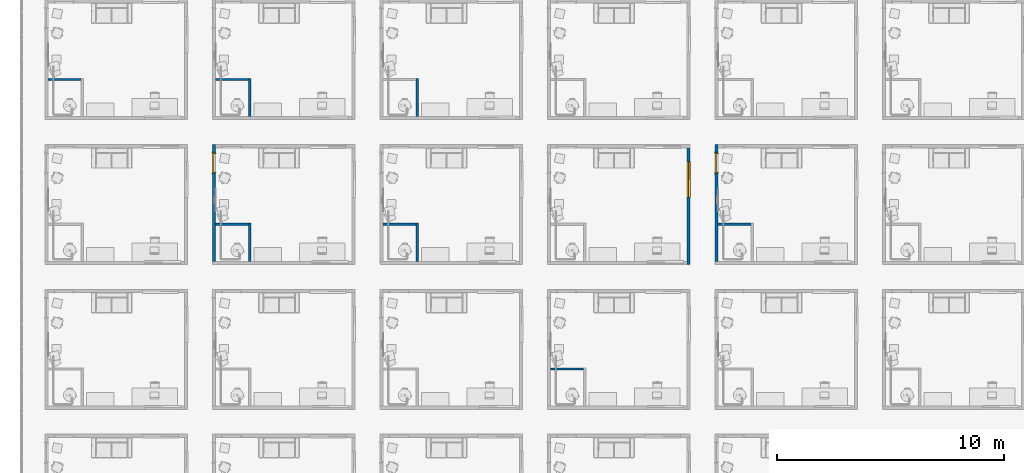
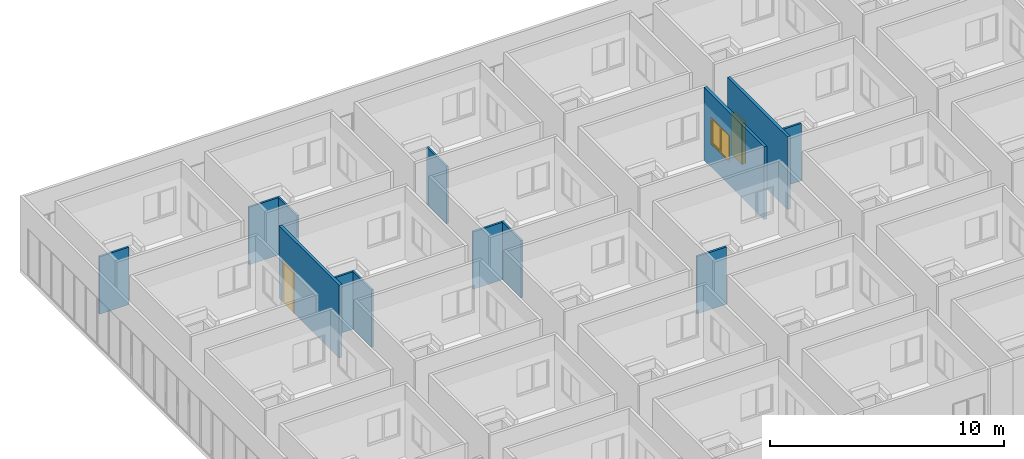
# One storey, part 8 of 72: 13 walls, 2 doors, 1 window, 3 openings.
"""IFC4 building model written with IfcOpenShell, lengths in centimetres."""

from ifc_helpers import new_model, entity, si_unit, converted_unit, derived_unit, direction, frame, origin, place, context, subcontext, project, spatial, indexed_curve, outline, extrude, polygons, source, transform, mapped, material, constituent, constituent_set, type_object, type_shapes, element, fill, save


model = new_model("IFC4")

# Units and contexts
model_context = context("Model", 3, precision=0.001, world=origin(), true_north=direction((6.123233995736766e-17, 1.0)))
body_context = subcontext(model_context, "Body", "Model", "MODEL_VIEW")
ifc_project = project(units=[si_unit("LENGTHUNIT", "METRE", prefix="CENTI"), si_unit("AREAUNIT", "SQUARE_METRE"), si_unit("VOLUMEUNIT", "CUBIC_METRE"), derived_unit("THERMALTRANSMITTANCEUNIT", [(si_unit("MASSUNIT", "GRAM", prefix="KILO"), 1), (si_unit("THERMODYNAMICTEMPERATUREUNIT", "KELVIN"), -1), (si_unit("TIMEUNIT", "SECOND"), -3)]), converted_unit("PLANEANGLEUNIT", "DEGREE", entity("IfcPlaneAngleMeasure", 0.017453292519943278), si_unit("PLANEANGLEUNIT", "RADIAN"), dimensions=[0, 0, 0, 0, 0, 0, 0]), derived_unit("MASSDENSITYUNIT", [(si_unit("MASSUNIT", "GRAM", prefix="KILO"), 1), (si_unit("LENGTHUNIT", "METRE"), -3)]), derived_unit("VAPORPERMEABILITYUNIT", [(si_unit("LENGTHUNIT", "METRE"), -1), (si_unit("TIMEUNIT", "SECOND"), 1)]), derived_unit("USERDEFINED", [(si_unit("MASSUNIT", "GRAM", prefix="KILO"), 1), (si_unit("TIMEUNIT", "SECOND"), -3), (si_unit("LENGTHUNIT", "METRE"), 3), (si_unit("ELECTRICCURRENTUNIT", "AMPERE"), -2)]), derived_unit("SPECIFICHEATCAPACITYUNIT", [(si_unit("THERMODYNAMICTEMPERATUREUNIT", "KELVIN"), -1), (si_unit("LENGTHUNIT", "METRE"), 2), (si_unit("TIMEUNIT", "SECOND"), -2)]), derived_unit("THERMALCONDUCTANCEUNIT", [(si_unit("MASSUNIT", "GRAM", prefix="KILO"), 1), (si_unit("THERMODYNAMICTEMPERATUREUNIT", "KELVIN"), -1), (si_unit("TIMEUNIT", "SECOND"), -3), (si_unit("LENGTHUNIT", "METRE"), 1)]), si_unit("PRESSUREUNIT", "PASCAL"), derived_unit("MODULUSOFELASTICITYUNIT", [(si_unit("MASSUNIT", "GRAM", prefix="KILO"), 1), (si_unit("LENGTHUNIT", "METRE"), -1), (si_unit("TIMEUNIT", "SECOND"), -2)]), derived_unit("THERMALEXPANSIONCOEFFICIENTUNIT", [(si_unit("THERMODYNAMICTEMPERATUREUNIT", "KELVIN"), -1)])], contexts=[model_context])

# Site, building, storey
site_placement = place(None, origin())
site = spatial("IfcSite", under=ifc_project, at=site_placement, Name="Default", CompositionType="ELEMENT")
building_placement = place(site_placement, origin())
building = spatial("IfcBuilding", under=site, at=building_placement, Name="IDS Escape Game Building", CompositionType="ELEMENT")
storey_placement = place(building_placement, frame((0.0, 0.0, 800.0)))
storey = spatial("IfcBuildingStorey", under=building, at=storey_placement, Name="02_Second Floor", CompositionType="ELEMENT", Elevation=800.0)

# Wall, opening, door
ifc_material_1 = material(Name="ARC_FME.g2_Fg2 Masonry_00_gen_BERSnl", Category="g - klei")
wall_type_1 = type_object("IfcWallType", Name="Basic Wall:ARC_22.10_WA_LB_SB14_gen_BERSnl", PredefinedType="STANDARD")
wall_1_placement = place(storey_placement, frame((738.0, 2441.0, 0.0), z_axis=(0.0, 0.0, 1.0), x_axis=(0.0, -1.0, 0.0)))
wall_1 = element("IfcWall", 1, at=wall_1_placement, inside=storey, type_object=wall_type_1, material=ifc_material_1, Name="Basic Wall:ARC_22.10_WA_LB_SB14_gen_BERSnl", ObjectType="Basic Wall:ARC_22.10_WA_LB_SB14_gen_BERSnl", PredefinedType="NOTDEFINED", context=body_context, shape_type="Tessellation", body=[
    polygons([(513.9999999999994, -6.9999999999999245, 379.9999999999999), (0.0, -6.9999999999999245, 379.9999999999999), (0.0, -6.9999999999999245, -1.0828671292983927e-13), (35.99999999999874, -6.9999999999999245, -1.0828671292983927e-13), (35.99999999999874, -6.9999999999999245, 215.00000000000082), (125.99999999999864, -6.9999999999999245, 215.00000000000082), (125.99999999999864, -6.9999999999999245, -1.0828671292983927e-13), (513.9999999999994, -6.9999999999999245, -1.0828671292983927e-13), (0.0, 7.000000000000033, 379.9999999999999), (13.999999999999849, 7.000000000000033, 379.9999999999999), (513.9999999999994, 7.000000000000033, 379.9999999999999), (513.9999999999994, 7.000000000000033, -1.0828671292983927e-13), (355.99999999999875, 7.000000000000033, -1.0828671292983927e-13), (345.99999999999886, 7.000000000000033, -1.0828671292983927e-13), (125.99999999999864, 7.000000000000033, -1.0828671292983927e-13), (125.99999999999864, 7.000000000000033, 215.00000000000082), (35.99999999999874, 7.000000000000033, 215.00000000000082), (35.99999999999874, 7.000000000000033, -1.0828671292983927e-13), (13.999999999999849, 7.000000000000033, -1.0828671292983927e-13), (0.0, 7.000000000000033, -1.0828671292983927e-13)], [[[1, 2, 3, 4, 5, 6, 7, 8]], [[9, 10, 11, 12, 13, 14, 15, 16, 17, 18, 19, 20]], [[3, 20, 19, 18, 4]], [[2, 1, 11, 10, 9]], [[17, 5, 4, 18]], [[6, 16, 15, 7]], [[5, 17, 16, 6]], [[3, 2, 9, 20]], [[1, 8, 12, 11]], [[12, 8, 7, 15, 14, 13]]], closed=True),
])
opening_1_placement = place(wall_1_placement, frame((2441.0, -738.0, 0.0), z_axis=(0.0, 0.0, 1.0), x_axis=(0.0, 1.0, 0.0)))
opening_1 = element("IfcOpeningElement", 2, at=opening_1_placement, cuts=wall_1, Name="Basic Wall:ARC_22.10_WA_LB_SB14_gen_BERSnl", PredefinedType="OPENING", context=body_context, shape_type="SweptSolid", body=[
    extrude(outline(indexed_curve([(-137.49999999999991, -44.99999999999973), (137.49999999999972, -44.99999999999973), (137.49999999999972, 45.00000000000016), (-137.49999999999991, 45.00000000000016), (-137.49999999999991, -44.99999999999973)], self_intersect=False)), frame((648.0, 2360.0, 77.50000000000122), z_axis=(1.0, 0.0, 0.0), x_axis=(0.0, 0.0, 1.0)), (0.0, 0.0, 1.0), 165.99999999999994),
])
ifc_material_2 = material(Name="ARC_FME.i3_wood_00_gen_BERSnl", Category="i - hout")
door_type = type_object("IfcDoorType", Name="ARC_32.30_DO_WB_binnendeur enkel draaiend met void_gen_BERSnl:Fire Exit_830x2115_EI60", OperationType="SINGLE_SWING_RIGHT", PredefinedType="DOOR", material=ifc_material_2)
shared_shape_1 = source(origin(), body_context, "Body", "Tessellation", [
    extrude(outline(indexed_curve([(-41.49999999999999, -3.749999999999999), (41.49999999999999, -3.749999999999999), (41.49999999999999, 3.75), (-41.49999999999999, 3.75), (-41.49999999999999, -3.749999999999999)], self_intersect=False)), frame((45.0, 79.24999999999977, 60.0), z_axis=(0.0, 0.0, 1.0), x_axis=(-1.0, 0.0, 0.0)), (0.0, 0.0, 1.0), 211.50000000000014),
    polygons([(88.99999999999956, 82.99999999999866, 59.999999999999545), (88.9999999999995, 67.99999999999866, 59.999999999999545), (94.99999999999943, 67.99999999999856, 59.999999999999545), (94.99999999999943, 66.49999999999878, 59.999999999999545), (84.99999999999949, 66.4999999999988, 59.999999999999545), (84.99999999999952, 75.49999999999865, 59.999999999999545), (86.49999999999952, 75.49999999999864, 59.999999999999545), (86.49999999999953, 84.49999999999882, 59.999999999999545), (94.99999999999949, 84.49999999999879, 59.999999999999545), (94.99999999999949, 82.99999999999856, 59.999999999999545), (88.99999999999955, 82.99999999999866, 274.0000000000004), (88.9999999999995, 67.99999999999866, 274.0000000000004), (0.9999999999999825, 67.99999999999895, 274.0000000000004), (0.9999999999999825, 67.99999999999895, 59.99999999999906), (-4.999999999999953, 67.99999999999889, 59.99999999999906), (-4.999999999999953, 67.99999999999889, 280.00000000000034), (94.99999999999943, 67.99999999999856, 280.00000000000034), (94.99999999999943, 66.49999999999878, 280.00000000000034), (-4.999999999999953, 66.4999999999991, 280.00000000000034), (-4.999999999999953, 66.4999999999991, 59.99999999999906), (4.999999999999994, 66.49999999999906, 59.99999999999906), (4.999999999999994, 66.49999999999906, 270.00000000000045), (84.99999999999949, 66.4999999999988, 270.00000000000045), (84.99999999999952, 75.49999999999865, 270.00000000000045), (5.000000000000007, 75.4999999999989, 270.00000000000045), (5.0, 75.4999999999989, 59.99999999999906), (3.5000000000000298, 75.4999999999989, 59.99999999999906), (3.500000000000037, 75.4999999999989, 271.50000000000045), (86.4999999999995, 75.49999999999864, 271.50000000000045), (86.49999999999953, 84.49999999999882, 271.50000000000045), (3.5000000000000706, 84.49999999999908, 271.50000000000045), (3.500000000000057, 84.49999999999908, 59.99999999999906), (-4.999999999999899, 84.4999999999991, 59.99999999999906), (-4.999999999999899, 84.4999999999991, 280.00000000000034), (94.99999999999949, 84.49999999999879, 280.00000000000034), (94.99999999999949, 82.99999999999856, 280.00000000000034), (-4.999999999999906, 82.99999999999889, 280.00000000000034), (-4.999999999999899, 82.99999999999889, 59.99999999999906), (1.0000000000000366, 82.99999999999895, 59.99999999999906), (1.0000000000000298, 82.99999999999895, 274.0000000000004)], [[[1, 2, 3, 4, 5, 6, 7, 8, 9, 10]], [[2, 1, 11, 12]], [[3, 2, 12, 13, 14, 15, 16, 17]], [[4, 3, 17, 18]], [[5, 4, 18, 19, 20, 21, 22, 23]], [[6, 5, 23, 24]], [[7, 6, 24, 25, 26, 27, 28, 29]], [[8, 7, 29, 30]], [[9, 8, 30, 31, 32, 33, 34, 35]], [[10, 9, 35, 36]], [[1, 10, 36, 37, 38, 39, 40, 11]], [[37, 34, 33, 38]], [[39, 38, 33, 32, 27, 26, 21, 20, 15, 14]], [[13, 40, 39, 14]], [[31, 28, 27, 32]], [[25, 22, 21, 26]], [[19, 16, 15, 20]], [[36, 35, 34, 37]], [[30, 29, 28, 31]], [[24, 23, 22, 25]], [[18, 17, 16, 19]], [[12, 11, 40, 13]]], closed=True),
])
type_shapes(door_type, [shared_shape_1])
door_1_placement = place(opening_1_placement, frame((814.0, 2315.0, -60.0), z_axis=(0.0, 0.0, 1.0), x_axis=(0.0, 1.0, 0.0)))
door_1 = element("IfcDoor", 3, at=door_1_placement, inside=storey, type_object=door_type, material=ifc_material_2, Name="ARC_32.30_DO_WB_binnendeur enkel draaiend met void_gen_BERSnl:Fire Exit_830x2115_EI60", ObjectType="ARC_32.30_DO_WB_binnendeur enkel draaiend met void_gen_BERSnl:Fire Exit_830x2115_EI60", OverallHeight=274.99999999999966, OverallWidth=89.9999999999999, PredefinedType="DOOR", context=body_context, shape_type="MappedRepresentation", body=[
    mapped(shared_shape_1, transform((0.0, 0.0, 0.0), scale=1.0)),
])
fill(opening_1, door_1)

# Wall, opening, window
wall_2_placement = place(storey_placement, frame((2828.0, 1913.0, 0.0), z_axis=(0.0, 0.0, 1.0), x_axis=(0.0, 1.0, 0.0)))
wall_2 = element("IfcWall", 4, at=wall_2_placement, inside=storey, type_object=wall_type_1, material=ifc_material_1, Name="Basic Wall:ARC_22.10_WA_LB_SB14_gen_BERSnl", ObjectType="Basic Wall:ARC_22.10_WA_LB_SB14_gen_BERSnl", PredefinedType="NOTDEFINED", context=body_context, shape_type="Tessellation", body=[
    polygons([(0.0, -6.999999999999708, -1.0828671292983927e-13), (513.9999999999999, -6.999999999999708, -1.0828671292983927e-13), (513.9999999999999, -6.999999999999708, 379.9999999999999), (0.0, -6.999999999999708, 379.9999999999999), (454.00000000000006, -6.999999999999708, 260.00000000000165), (454.0000000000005, -6.999999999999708, 119.9999999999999), (294.0000000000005, -6.999999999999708, 119.9999999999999), (294.0000000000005, -6.999999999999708, 260.00000000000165), (454.0000000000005, 7.000000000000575, 119.9999999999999), (454.0000000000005, 7.000000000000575, 260.0000000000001), (294.0000000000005, 7.000000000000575, 260.0000000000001), (294.0000000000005, 7.000000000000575, 119.9999999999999), (0.0, 7.000000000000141, -1.0828671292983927e-13), (0.0, 7.000000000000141, 379.9999999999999), (14.000000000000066, 7.000000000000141, 379.9999999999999), (513.9999999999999, 7.000000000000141, 379.9999999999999), (513.9999999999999, 7.000000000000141, -1.0828671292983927e-13), (14.000000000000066, 7.000000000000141, -1.0828671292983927e-13)], [[[1, 2, 3, 4], [5, 6, 7, 8]], [[13, 14, 15, 16, 17, 18], [9, 10, 11, 12]], [[2, 1, 13, 18, 17]], [[4, 3, 16, 15, 14]], [[10, 9, 6, 5]], [[7, 12, 11, 8]], [[10, 5, 8, 11]], [[12, 7, 6, 9]], [[1, 4, 14, 13]], [[3, 2, 17, 16]]], closed=True),
])
opening_2_placement = place(wall_2_placement, frame((-1913.0, 2828.0, 120.0), z_axis=(0.0, 0.0, 1.0), x_axis=(0.0, -1.0, 0.0)))
opening_2 = element("IfcOpeningElement", 5, at=opening_2_placement, cuts=wall_2, Name="Basic Wall:ARC_22.10_WA_LB_SB14_gen_BERSnl", PredefinedType="OPENING", context=body_context, shape_type="Tessellation", body=[
    polygons([(2820.999999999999, 2367.0000000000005, 0.0), (2820.999999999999, 2367.0000000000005, -0.9999999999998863), (2815.999999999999, 2367.0000000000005, -0.9999999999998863), (2815.999999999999, 2367.0000000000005, 0.0), (2820.999999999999, 2207.0000000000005, 0.0), (2815.999999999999, 2207.0000000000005, 0.0), (2815.999999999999, 2207.0000000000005, -0.9999999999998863), (2820.999999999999, 2207.0000000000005, -0.9999999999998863), (2820.9999999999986, 2362.0000000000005, 1.1368683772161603e-13), (2820.9999999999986, 2212.0000000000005, 1.1368683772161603e-13), (2815.9999999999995, 2212.0000000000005, 0.0), (2815.999999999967, 2212.0, 134.99999999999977), (2815.999999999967, 2362.0000000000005, 134.99999999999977), (2815.9999999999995, 2362.0000000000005, 0.0), (2840.036825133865, 2367.0000000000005, 0.0), (2820.999999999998, 2367.0000000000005, 1.1368683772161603e-13), (2820.999999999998, 2367.0000000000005, 140.0000000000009), (2840.036825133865, 2367.0000000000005, 140.00000000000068), (2840.036825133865, 2207.0000000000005, 140.00000000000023), (2820.999999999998, 2207.0000000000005, 140.00000000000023), (2820.9999999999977, 2207.0000000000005, 0.0), (2840.036825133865, 2207.0000000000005, 1.1368683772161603e-13), (2820.999999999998, 2362.0000000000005, 134.99999999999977), (2820.999999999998, 2212.0, 134.99999999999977)], [[[1, 2, 3, 4]], [[5, 6, 7, 8]], [[1, 9, 10, 5, 8, 2]], [[2, 8, 7, 3]], [[3, 7, 6, 11, 12, 13, 14, 4]], [[4, 14, 9, 1]], [[15, 16, 17, 18]], [[19, 20, 21, 22]], [[18, 17, 20, 19]], [[18, 19, 22, 15]], [[17, 16, 9, 23, 24, 10, 21, 20]], [[22, 21, 10, 9, 16, 15]], [[11, 10, 24, 12]], [[13, 23, 9, 14]], [[12, 24, 23, 13]], [[5, 10, 11, 6]]], closed=True),
])
ifc_material_3 = material(Name="<Unnamed>")
ifc_constituent_1 = constituent(ifc_material_3, Name="<Unnamed>", fraction=0.0)
ifc_material_4 = material(Name="ARC_FME.o1_glass_00_gen_BERSnl", Category="o - glas")
ifc_constituent_2 = constituent(ifc_material_4, Name="ARC_FME.o1_glass_00_gen_BERSnl", Category="o - glas", fraction=1.0)
ifc_constituent_set_1 = constituent_set(constituents=[ifc_constituent_1, ifc_constituent_2])
ifc_constituent_3 = constituent(ifc_material_3, Name="BE Tablet", fraction=0.0)
ifc_constituent_4 = constituent(ifc_material_3, Name="Frame/Mullion", fraction=0.0)
ifc_constituent_5 = constituent(ifc_material_4, Name="Glass", Category="o - glas", fraction=1.0)
ifc_constituent_set_2 = constituent_set(constituents=[ifc_constituent_3, ifc_constituent_4, ifc_constituent_5])
window_type = type_object("IfcWindowType", Name="ARC_31_WI_WB_Dubbel Raam-Recht-Vast en Draaiend_gen_BERSnl:Links-Draaiend / Rechts-Draaiend", PartitioningType="NOTDEFINED", PredefinedType="WINDOW", material=ifc_constituent_set_2)
shared_shape_2 = source(origin(), body_context, "Body", "Tessellation", [
    extrude(outline(indexed_curve([(-80.00000000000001, -4.999999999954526), (80.00000000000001, -4.999999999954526), (80.00000000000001, 4.999999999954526), (-80.00000000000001, 4.999999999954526), (-80.00000000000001, -4.999999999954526)], self_intersect=False)), frame((80.0, 7.036825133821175, 1.0), z_axis=(0.0, 0.0, 1.0), x_axis=(-1.0, 0.0, 0.0)), (0.0, 0.0, 1.0), 2.000000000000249),
    extrude(outline(indexed_curve([(-2.9999999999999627, -3.000000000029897), (-7.656209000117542e-14, -3.000000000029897), (-7.064016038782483e-14, 5.979964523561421e-11), (3.0000000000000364, 5.978991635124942e-11), (3.0000000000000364, 2.9999999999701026), (-2.9999999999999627, 2.9999999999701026), (-2.9999999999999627, -3.000000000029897)], self_intersect=False)), frame((80.0, 15.03682513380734, 7.0)), (0.0, 0.0, 1.0), 128.00000000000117),
    extrude(outline(indexed_curve([(-35.499999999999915, -1.2000000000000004), (35.499999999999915, -1.2000000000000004), (35.49999999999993, 1.2), (-35.499999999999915, 1.2), (-35.499999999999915, -1.2000000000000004)], self_intersect=False)), frame((41.50000000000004, 15.036825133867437, 7.0), z_axis=(0.0, 0.0, 1.0), x_axis=(-1.0, 0.0, 0.0)), (0.0, 0.0, 1.0), 128.000000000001),
    extrude(outline(indexed_curve([(-67.00000000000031, -38.500000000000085), (67.00000000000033, -38.5000000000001), (67.00000000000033, 38.50000000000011), (-67.00000000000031, 38.50000000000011), (-67.00000000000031, -38.500000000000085)], self_intersect=False), holes=[indexed_curve([(61.00000000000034, -32.50000000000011), (-61.00000000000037, -32.500000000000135), (-61.00000000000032, 32.50000000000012), (61.00000000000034, 32.50000000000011), (61.00000000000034, -32.50000000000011)], self_intersect=False)]), frame((118.5, 9.03682513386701, 71.0), z_axis=(0.0, 1.0, 0.0), x_axis=(0.0, 0.0, -1.0)), (0.0, 0.0, 1.0), 6.0),
    extrude(outline(indexed_curve([(-32.500000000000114, -1.2000000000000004), (32.500000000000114, -1.2000000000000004), (32.500000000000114, 1.2000000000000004), (-32.500000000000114, 1.2000000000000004), (-32.500000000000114, -1.2000000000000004)], self_intersect=False)), frame((118.5, 12.036825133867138, 10.0), z_axis=(0.0, 0.0, 1.0), x_axis=(-1.0, 0.0, 0.0)), (0.0, 0.0, 1.0), 122.00000000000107),
    polygons([(160.00000000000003, 18.03682513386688, 141.00000000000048), (160.00000000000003, 18.03682513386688, 1.0000000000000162), (4.0607517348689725e-14, 18.036825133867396, 1.0000000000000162), (4.0607517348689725e-14, 18.036825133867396, 141.00000000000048), (6.000000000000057, 18.03682513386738, 135.00000000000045), (6.000000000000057, 18.03682513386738, 7.000000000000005), (76.99999999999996, 18.03682513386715, 7.000000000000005), (154.00000000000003, 18.0368251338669, 7.000000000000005), (154.00000000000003, 18.0368251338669, 135.00000000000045), (76.99999999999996, 18.03682513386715, 135.00000000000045), (160.0, 12.03682513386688, 141.00000000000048), (160.0, 12.03682513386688, 1.0000000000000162), (2.7071678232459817e-14, 12.036825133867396, 1.0000000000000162), (2.7071678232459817e-14, 12.036825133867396, 141.00000000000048), (6.000000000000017, 12.036825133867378, 135.00000000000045), (6.000000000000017, 12.036825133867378, 7.000000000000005), (76.99999999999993, 12.036825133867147, 7.000000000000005), (79.99999999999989, 12.036825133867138, 7.000000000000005), (79.9999999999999, 15.036825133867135, 7.000000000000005), (154.00000000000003, 15.0368251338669, 7.000000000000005), (154.00000000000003, 15.036825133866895, 135.00000000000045), (76.99999999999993, 12.036825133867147, 135.00000000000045), (79.99999999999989, 12.036825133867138, 135.00000000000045), (79.99999999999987, 12.036825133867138, 138.00000000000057), (157.00000000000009, 12.036825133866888, 138.00000000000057), (157.00000000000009, 12.036825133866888, 3.9999999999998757), (79.99999999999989, 12.036825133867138, 3.9999999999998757), (157.0000000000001, 15.036825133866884, 3.9999999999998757), (157.0000000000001, 15.036825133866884, 138.00000000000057), (79.99999999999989, 15.036825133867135, 3.9999999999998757), (79.99999999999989, 15.036825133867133, 138.00000000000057), (79.99999999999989, 15.036825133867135, 135.00000000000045)], [[[1, 2, 3, 4], [5, 6, 7, 8, 9, 10]], [[2, 1, 11, 12]], [[3, 2, 12, 13]], [[4, 3, 13, 14]], [[6, 5, 15, 16]], [[6, 16, 17, 18, 19, 20, 8, 7]], [[9, 8, 20, 21]], [[11, 14, 13, 12], [16, 15, 22, 23, 24, 25, 26, 27, 18, 17]], [[28, 26, 25, 29]], [[30, 27, 26, 28]], [[31, 24, 23, 32]], [[30, 28, 29, 31, 32, 21, 20, 19]], [[1, 4, 14, 11]], [[15, 5, 10, 9, 21, 32, 23, 22]], [[24, 31, 29, 25]], [[27, 30, 19, 18]]], closed=True),
])
type_shapes(window_type, [shared_shape_2])
window_placement = place(opening_2_placement, frame((2840.036825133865, 2207.0, -1.0), z_axis=(0.0, 0.0, 1.0), x_axis=(0.0, 1.0, 0.0)))
window = element("IfcWindow", 6, at=window_placement, inside=storey, type_object=window_type, material=ifc_constituent_set_1, Name="ARC_31_WI_WB_Dubbel Raam-Recht-Vast en Draaiend_gen_BERSnl:Links-Draaiend / Rechts-Draaiend", ObjectType="ARC_31_WI_WB_Dubbel Raam-Recht-Vast en Draaiend_gen_BERSnl:Links-Draaiend / Rechts-Draaiend", OverallHeight=140.00000000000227, OverallWidth=160.0000000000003, PartitioningType="NOTDEFINED", PredefinedType="WINDOW", context=body_context, shape_type="MappedRepresentation", body=[
    mapped(shared_shape_2, transform((0.0, 0.0, 0.0), scale=1.0)),
])
fill(opening_2, window)

# Wall, opening, door
wall_3_placement = place(storey_placement, frame((2952.0, 2441.0, 0.0), z_axis=(0.0, 0.0, 1.0), x_axis=(0.0, -1.0, 0.0)))
wall_3 = element("IfcWall", 7, at=wall_3_placement, inside=storey, type_object=wall_type_1, material=ifc_material_1, Name="Basic Wall:ARC_22.10_WA_LB_SB14_gen_BERSnl", ObjectType="Basic Wall:ARC_22.10_WA_LB_SB14_gen_BERSnl", PredefinedType="NOTDEFINED", context=body_context, shape_type="Tessellation", body=[
    polygons([(513.9999999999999, -6.999999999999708, 379.9999999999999), (0.0, -6.999999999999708, 379.9999999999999), (0.0, -6.999999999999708, -1.0828671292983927e-13), (35.99999999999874, -6.999999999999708, -1.0828671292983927e-13), (35.99999999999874, -6.999999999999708, 215.00000000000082), (125.99999999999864, -6.999999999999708, 215.00000000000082), (125.99999999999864, -6.999999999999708, -1.0828671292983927e-13), (513.9999999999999, -6.999999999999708, -1.0828671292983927e-13), (0.0, 7.000000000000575, 379.9999999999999), (13.999999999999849, 7.000000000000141, 379.9999999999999), (513.9999999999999, 7.000000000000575, 379.9999999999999), (513.9999999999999, 7.000000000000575, -1.0828671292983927e-13), (355.99999999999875, 7.000000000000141, -1.0828671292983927e-13), (345.99999999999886, 7.000000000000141, -1.0828671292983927e-13), (125.99999999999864, 7.000000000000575, -1.0828671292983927e-13), (125.99999999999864, 7.000000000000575, 215.00000000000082), (35.99999999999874, 7.000000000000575, 215.00000000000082), (35.99999999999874, 7.000000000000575, -1.0828671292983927e-13), (13.999999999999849, 7.000000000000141, -1.0828671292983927e-13), (0.0, 7.000000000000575, -1.0828671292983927e-13)], [[[1, 2, 3, 4, 5, 6, 7, 8]], [[9, 10, 11, 12, 13, 14, 15, 16, 17, 18, 19, 20]], [[3, 20, 19, 18, 4]], [[2, 1, 11, 10, 9]], [[17, 5, 4, 18]], [[6, 16, 15, 7]], [[5, 17, 16, 6]], [[3, 2, 9, 20]], [[1, 8, 12, 11]], [[12, 8, 7, 15, 14, 13]]], closed=True),
])
opening_3_placement = place(wall_3_placement, frame((2441.0, -2952.0, 0.0), z_axis=(0.0, 0.0, 1.0), x_axis=(0.0, 1.0, 0.0)))
opening_3 = element("IfcOpeningElement", 8, at=opening_3_placement, cuts=wall_3, Name="Basic Wall:ARC_22.10_WA_LB_SB14_gen_BERSnl", PredefinedType="OPENING", context=body_context, shape_type="SweptSolid", body=[
    extrude(outline(indexed_curve([(-137.49999999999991, -45.00000000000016), (137.49999999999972, -45.00000000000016), (137.49999999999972, 44.99999999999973), (-137.49999999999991, 44.99999999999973), (-137.49999999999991, -45.00000000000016)], self_intersect=False)), frame((2862.0, 2360.0, 77.50000000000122), z_axis=(1.0, 0.0, 0.0), x_axis=(0.0, 0.0, 1.0)), (0.0, 0.0, 1.0), 166.00000000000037),
])
door_2_placement = place(opening_3_placement, frame((3028.0, 2315.0, -60.0), z_axis=(0.0, 0.0, 1.0), x_axis=(0.0, 1.0, 0.0)))
door_2 = element("IfcDoor", 9, at=door_2_placement, inside=storey, type_object=door_type, material=ifc_material_2, Name="ARC_32.30_DO_WB_binnendeur enkel draaiend met void_gen_BERSnl:Fire Exit_830x2115_EI60", ObjectType="ARC_32.30_DO_WB_binnendeur enkel draaiend met void_gen_BERSnl:Fire Exit_830x2115_EI60", OverallHeight=274.99999999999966, OverallWidth=89.9999999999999, PredefinedType="DOOR", context=body_context, shape_type="MappedRepresentation", body=[
    mapped(shared_shape_1, transform((0.0, 0.0, 0.0), scale=1.0)),
])
fill(opening_3, door_2)

# Walls
ifc_material_5 = material(Name="ARC_FME.r2_Plaster_white_gen_BERSnl", Category="r - klei, gips, magnesium en kunststof bindmiddelen")
wall_type_2 = type_object("IfcWallType", Name="Basic Wall:ARC_22.10_WA_LB_GPS10_gen_BERSnl", PredefinedType="STANDARD")
wall_4_placement = place(storey_placement, frame((2366.0, 1452.0, 0.0), z_axis=(0.0, 0.0, 1.0), x_axis=(-1.0, 0.0, 0.0)))
element("IfcWall", 10, at=wall_4_placement, inside=storey, type_object=wall_type_2, material=ifc_material_5, Name="Basic Wall:ARC_22.10_WA_LB_GPS10_gen_BERSnl", ObjectType="Basic Wall:ARC_22.10_WA_LB_GPS10_gen_BERSnl", PredefinedType="NOTDEFINED", context=body_context, shape_type="SweptSolid", body=[
    extrude(outline(indexed_curve([(144.99999999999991, 4.9999999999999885), (-1.6380951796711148e-14, 4.999999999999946), (1.6380951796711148e-14, -4.999999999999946), (144.99999999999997, -4.999999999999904), (144.99999999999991, 4.9999999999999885)], self_intersect=False)), origin(), (0.0, 0.0, 1.0), 300.0),
])
wall_5_placement = place(storey_placement, frame((895.0, 1927.0, 0.0), z_axis=(0.0, 0.0, 1.0), x_axis=(0.0, 1.0, 0.0)))
element("IfcWall", 11, at=wall_5_placement, inside=storey, type_object=wall_type_2, material=ifc_material_5, Name="Basic Wall:ARC_22.10_WA_LB_GPS10_gen_BERSnl", ObjectType="Basic Wall:ARC_22.10_WA_LB_GPS10_gen_BERSnl", PredefinedType="NOTDEFINED", context=body_context, shape_type="SweptSolid", body=[
    extrude(outline(indexed_curve([(168.00000000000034, 4.999999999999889), (-7.956027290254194e-15, 4.999999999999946), (7.956027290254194e-15, -4.999999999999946), (168.00000000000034, -5.0000000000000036), (168.00000000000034, 4.999999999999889)], self_intersect=False)), origin(), (0.0, 0.0, 1.0), 300.0),
])
wall_6_placement = place(storey_placement, frame((890.0, 2090.0, 0.0), z_axis=(0.0, 0.0, 1.0), x_axis=(-1.0, 0.0, 0.0)))
element("IfcWall", 12, at=wall_6_placement, inside=storey, type_object=wall_type_2, material=ifc_material_5, Name="Basic Wall:ARC_22.10_WA_LB_GPS10_gen_BERSnl", ObjectType="Basic Wall:ARC_22.10_WA_LB_GPS10_gen_BERSnl", PredefinedType="NOTDEFINED", context=body_context, shape_type="SweptSolid", body=[
    extrude(outline(indexed_curve([(145.00000000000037, 5.000000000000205), (-1.6380951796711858e-14, 5.0000000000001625), (1.6380951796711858e-14, -5.0000000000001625), (145.00000000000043, -5.00000000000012), (145.00000000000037, 5.000000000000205)], self_intersect=False)), origin(), (0.0, 0.0, 1.0), 300.0),
])
wall_7_placement = place(storey_placement, frame((1633.0, 1927.0, 0.0), z_axis=(0.0, 0.0, 1.0), x_axis=(0.0, 1.0, 0.0)))
element("IfcWall", 13, at=wall_7_placement, inside=storey, type_object=wall_type_2, material=ifc_material_5, Name="Basic Wall:ARC_22.10_WA_LB_GPS10_gen_BERSnl", ObjectType="Basic Wall:ARC_22.10_WA_LB_GPS10_gen_BERSnl", PredefinedType="NOTDEFINED", context=body_context, shape_type="SweptSolid", body=[
    extrude(outline(indexed_curve([(168.00000000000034, 4.9999999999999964), (-7.956027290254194e-15, 4.999999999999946), (7.956027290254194e-15, -4.999999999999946), (168.00000000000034, -4.999999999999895), (168.00000000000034, 4.9999999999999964)], self_intersect=False)), origin(), (0.0, 0.0, 1.0), 300.0),
])
wall_8_placement = place(storey_placement, frame((1628.0, 2090.0, 0.0), z_axis=(0.0, 0.0, 1.0), x_axis=(-1.0, 0.0, 0.0)))
element("IfcWall", 14, at=wall_8_placement, inside=storey, type_object=wall_type_2, material=ifc_material_5, Name="Basic Wall:ARC_22.10_WA_LB_GPS10_gen_BERSnl", ObjectType="Basic Wall:ARC_22.10_WA_LB_GPS10_gen_BERSnl", PredefinedType="NOTDEFINED", context=body_context, shape_type="SweptSolid", body=[
    extrude(outline(indexed_curve([(145.00000000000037, 5.000000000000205), (-1.6380951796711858e-14, 5.0000000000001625), (1.6380951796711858e-14, -5.0000000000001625), (145.00000000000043, -5.00000000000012), (145.00000000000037, 5.000000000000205)], self_intersect=False)), origin(), (0.0, 0.0, 1.0), 300.0),
])
wall_9_placement = place(storey_placement, frame((3104.0, 2090.0, 0.0), z_axis=(0.0, 0.0, 1.0), x_axis=(-1.0, 0.0, 0.0)))
element("IfcWall", 15, at=wall_9_placement, inside=storey, type_object=wall_type_2, material=ifc_material_5, Name="Basic Wall:ARC_22.10_WA_LB_GPS10_gen_BERSnl", ObjectType="Basic Wall:ARC_22.10_WA_LB_GPS10_gen_BERSnl", PredefinedType="NOTDEFINED", context=body_context, shape_type="SweptSolid", body=[
    extrude(outline(indexed_curve([(144.99999999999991, 5.000000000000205), (-1.6380951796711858e-14, 5.0000000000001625), (1.6380951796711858e-14, -5.0000000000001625), (144.99999999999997, -5.00000000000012), (144.99999999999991, 5.000000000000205)], self_intersect=False)), origin(), (0.0, 0.0, 1.0), 300.0),
])
wall_10_placement = place(storey_placement, frame((152.0, 2728.0, 0.0), z_axis=(0.0, 0.0, 1.0), x_axis=(-1.0, 0.0, 0.0)))
element("IfcWall", 16, at=wall_10_placement, inside=storey, type_object=wall_type_2, material=ifc_material_5, Name="Basic Wall:ARC_22.10_WA_LB_GPS10_gen_BERSnl", ObjectType="Basic Wall:ARC_22.10_WA_LB_GPS10_gen_BERSnl", PredefinedType="NOTDEFINED", context=body_context, shape_type="SweptSolid", body=[
    extrude(outline(indexed_curve([(145.00000000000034, 5.000000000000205), (1.0690726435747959e-14, 5.0000000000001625), (-1.0690726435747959e-14, -5.0000000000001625), (145.00000000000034, -5.00000000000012), (145.00000000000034, 5.000000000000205)], self_intersect=False)), origin(), (0.0, 0.0, 1.0), 300.0),
])
wall_11_placement = place(storey_placement, frame((895.0, 2565.0, 0.0), z_axis=(0.0, 0.0, 1.0), x_axis=(0.0, 1.0, 0.0)))
element("IfcWall", 17, at=wall_11_placement, inside=storey, type_object=wall_type_2, material=ifc_material_5, Name="Basic Wall:ARC_22.10_WA_LB_GPS10_gen_BERSnl", ObjectType="Basic Wall:ARC_22.10_WA_LB_GPS10_gen_BERSnl", PredefinedType="NOTDEFINED", context=body_context, shape_type="SweptSolid", body=[
    extrude(outline(indexed_curve([(168.00000000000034, 4.999999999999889), (-7.956027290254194e-15, 4.999999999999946), (7.956027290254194e-15, -4.999999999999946), (168.00000000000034, -5.0000000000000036), (168.00000000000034, 4.999999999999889)], self_intersect=False)), origin(), (0.0, 0.0, 1.0), 300.0),
])
wall_12_placement = place(storey_placement, frame((890.0, 2728.0, 0.0), z_axis=(0.0, 0.0, 1.0), x_axis=(-1.0, 0.0, 0.0)))
element("IfcWall", 18, at=wall_12_placement, inside=storey, type_object=wall_type_2, material=ifc_material_5, Name="Basic Wall:ARC_22.10_WA_LB_GPS10_gen_BERSnl", ObjectType="Basic Wall:ARC_22.10_WA_LB_GPS10_gen_BERSnl", PredefinedType="NOTDEFINED", context=body_context, shape_type="SweptSolid", body=[
    extrude(outline(indexed_curve([(145.00000000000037, 5.000000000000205), (-1.6380951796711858e-14, 5.0000000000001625), (1.6380951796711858e-14, -5.0000000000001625), (145.00000000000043, -5.00000000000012), (145.00000000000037, 5.000000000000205)], self_intersect=False)), origin(), (0.0, 0.0, 1.0), 300.0),
])
wall_13_placement = place(storey_placement, frame((1633.0, 2565.0, 0.0), z_axis=(0.0, 0.0, 1.0), x_axis=(0.0, 1.0, 0.0)))
element("IfcWall", 19, at=wall_13_placement, inside=storey, type_object=wall_type_2, material=ifc_material_5, Name="Basic Wall:ARC_22.10_WA_LB_GPS10_gen_BERSnl", ObjectType="Basic Wall:ARC_22.10_WA_LB_GPS10_gen_BERSnl", PredefinedType="NOTDEFINED", context=body_context, shape_type="SweptSolid", body=[
    extrude(outline(indexed_curve([(168.00000000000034, 4.9999999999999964), (-7.956027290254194e-15, 4.999999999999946), (7.956027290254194e-15, -4.999999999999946), (168.00000000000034, -4.999999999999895), (168.00000000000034, 4.9999999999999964)], self_intersect=False)), origin(), (0.0, 0.0, 1.0), 300.0),
])

save(model, "model.ifc")
